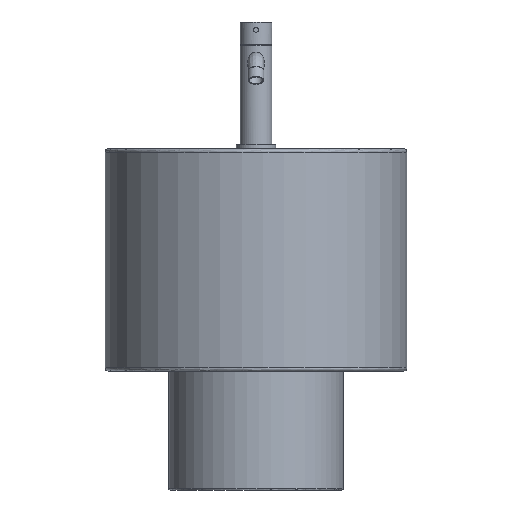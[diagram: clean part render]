
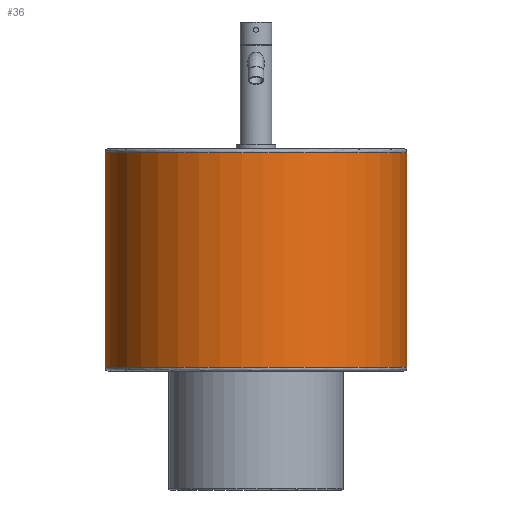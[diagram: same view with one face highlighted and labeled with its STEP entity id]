
A CAD part, front view. The second image highlights one B-rep face of the part: STEP entity #36.
In plain terms, the highlighted cylindrical face has radius 190 mm (diameter 380 mm), a partial arc.
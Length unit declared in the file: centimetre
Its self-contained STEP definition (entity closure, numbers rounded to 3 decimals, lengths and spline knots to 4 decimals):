
#36=ADVANCED_FACE('',(#128),#1310,.T.);
#128=FACE_OUTER_BOUND('',#222,.T.);
#222=EDGE_LOOP('',(#353,#354,#355,#356));
#353=ORIENTED_EDGE('',*,*,#735,.F.);
#354=ORIENTED_EDGE('',*,*,#772,.T.);
#355=ORIENTED_EDGE('',*,*,#731,.T.);
#356=ORIENTED_EDGE('',*,*,#774,.F.);
#731=EDGE_CURVE('',#1136,#1141,#929,.T.);
#735=EDGE_CURVE('',#1153,#1151,#933,.T.);
#772=EDGE_CURVE('',#1153,#1136,#1079,.T.);
#774=EDGE_CURVE('',#1151,#1141,#1081,.T.);
#929=B_SPLINE_CURVE_WITH_KNOTS('',1,(#5500,#5501),.UNSPECIFIED.,.F.,.F.,
(2,2),(0.5,24.5),.UNSPECIFIED.);
#933=B_SPLINE_CURVE_WITH_KNOTS('',1,(#5508,#5509),.UNSPECIFIED.,.F.,.F.,
(2,2),(0.5,24.5),.UNSPECIFIED.);
#1079=(
BOUNDED_CURVE()
B_SPLINE_CURVE(2,(#5688,#5689,#5690,#5691,#5692),.UNSPECIFIED.,.F.,.F.)
B_SPLINE_CURVE_WITH_KNOTS((3,2,3),(0.,29.0595,58.1191),
 .UNSPECIFIED.)
CURVE()
GEOMETRIC_REPRESENTATION_ITEM()
RATIONAL_B_SPLINE_CURVE((1.,0.707,1.,0.707,1.))
REPRESENTATION_ITEM('')
);
#1081=(
BOUNDED_CURVE()
B_SPLINE_CURVE(2,(#5698,#5699,#5700,#5701,#5702),.UNSPECIFIED.,.F.,.F.)
B_SPLINE_CURVE_WITH_KNOTS((3,2,3),(0.,29.0595,58.1191),
 .UNSPECIFIED.)
CURVE()
GEOMETRIC_REPRESENTATION_ITEM()
RATIONAL_B_SPLINE_CURVE((1.,0.707,1.,0.707,1.))
REPRESENTATION_ITEM('')
);
#1136=VERTEX_POINT('',#5298);
#1141=VERTEX_POINT('',#5303);
#1151=VERTEX_POINT('',#5313);
#1153=VERTEX_POINT('',#5315);
#1310=CYLINDRICAL_SURFACE('',#1443,19.);
#1443=AXIS2_PLACEMENT_3D('',#1844,#1487,$);
#1487=DIRECTION('',(0.,0.,-1.));
#1844=CARTESIAN_POINT('',(328.0004,-35.5,28.91));
#5298=CARTESIAN_POINT('',(309.0004,-35.5,42.41));
#5303=CARTESIAN_POINT('',(309.0004,-35.5,15.41));
#5313=CARTESIAN_POINT('',(347.0004,-35.5,15.41));
#5315=CARTESIAN_POINT('',(347.0004,-35.5,42.41));
#5500=CARTESIAN_POINT('',(309.0004,-35.5,42.41));
#5501=CARTESIAN_POINT('',(309.0004,-35.5,15.41));
#5508=CARTESIAN_POINT('',(347.0004,-35.5,42.41));
#5509=CARTESIAN_POINT('',(347.0004,-35.5,15.41));
#5688=CARTESIAN_POINT('',(347.0004,-35.5,42.41));
#5689=CARTESIAN_POINT('',(347.0004,-54.5,42.41));
#5690=CARTESIAN_POINT('',(328.0004,-54.5,42.41));
#5691=CARTESIAN_POINT('',(309.0004,-54.5,42.41));
#5692=CARTESIAN_POINT('',(309.0004,-35.5,42.41));
#5698=CARTESIAN_POINT('',(347.0004,-35.5,15.41));
#5699=CARTESIAN_POINT('',(347.0004,-54.5,15.41));
#5700=CARTESIAN_POINT('',(328.0004,-54.5,15.41));
#5701=CARTESIAN_POINT('',(309.0004,-54.5,15.41));
#5702=CARTESIAN_POINT('',(309.0004,-35.5,15.41));
